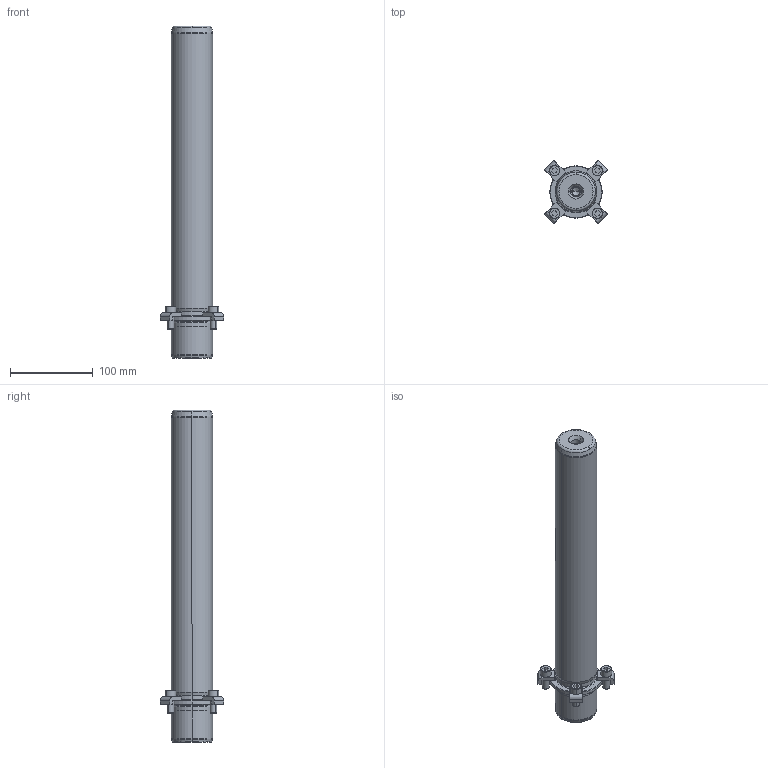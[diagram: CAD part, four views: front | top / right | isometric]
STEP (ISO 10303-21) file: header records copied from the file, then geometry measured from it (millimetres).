
FILE_DESCRIPTION((''),'2;1');
FILE_NAME('P21_050_355.stp','2008-12-23T13:45:36',(''),(''),'Mechanical Desktop 2009','Mechanical Desktop 2009',', , ');
FILE_SCHEMA(('CONFIG_CONTROL_DESIGN'));
Length unit declared in the file: millimetre
Products named in the file (2): Product; blmdl1
Assembly tree (1 placements, depth 2):
  Product
    blmdl1
Bounding box: 76.01 x 76.01 x 400 mm (x, y, z)
Volume: 793567.8 mm3; surface area: 80200.6 mm2
Topology: 9 solids, 9 shells, 195 faces, 477 edges, 309 vertices
Faces by surface type: plane 77, cylinder 52, cone 34, torus 16, bspline 16
Entity records: 6547 total; most frequent: CARTESIAN_POINT 1683, DIRECTION 1078, ORIENTED_EDGE 946, EDGE_CURVE 473, AXIS2_PLACEMENT_3D 424, VERTEX_POINT 309, CIRCLE 243, VECTOR 230
